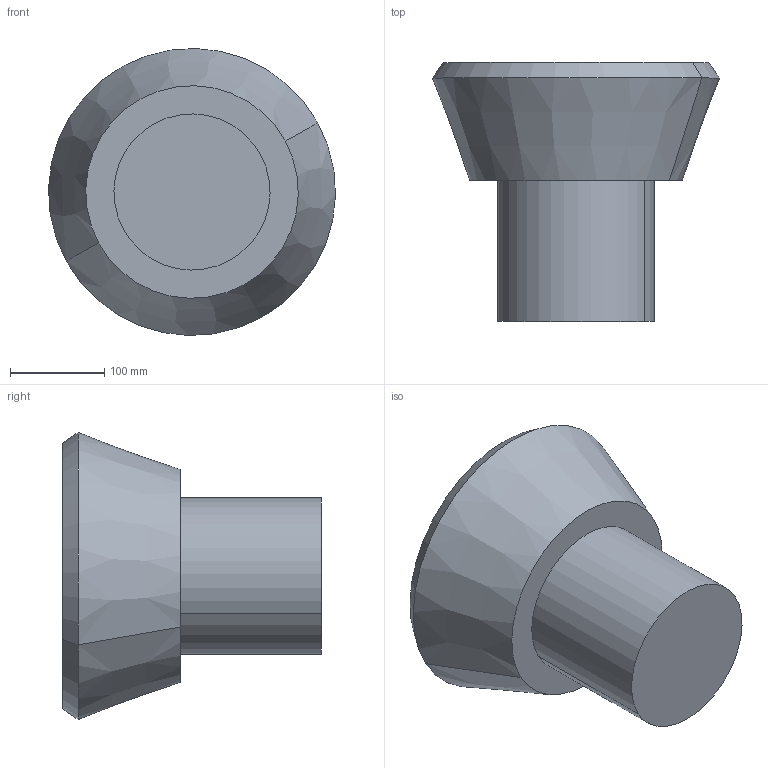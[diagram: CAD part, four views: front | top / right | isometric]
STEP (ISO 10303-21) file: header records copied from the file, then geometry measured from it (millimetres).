
FILE_DESCRIPTION(('CATIA V5 STEP Exchange'),'2;1');
FILE_NAME('C:\_Andres\UNIVERSIDAD\IQS\ASIGNATURAS\DAO\EXF\EXF-15161c\1original\Sánchez_Albiol_Ej09-optimiza_v23.stp','2016-03-04T21:55:31+00:00',('none'),('none'),'CATIA Version 5 Release 20 SP 1 (IN-10)','CATIA V5 STEP AP203','none');
FILE_SCHEMA(('CONFIG_CONTROL_DESIGN'));
Length unit declared in the file: millimetre
Products named in the file (1): Sánchez_Albiol_Ej09-optimiza_v23
Bounding box: 304.97 x 274.98 x 304.97 mm (x, y, z)
Volume: 10394871.4 mm3; surface area: 300092.8 mm2
Topology: 1 solids, 2 shells, 13 faces, 22 edges, 14 vertices
Faces by surface type: plane 5, cylinder 4, cone 4
Entity records: 324 total; most frequent: CARTESIAN_POINT 47, ORIENTED_EDGE 44, DIRECTION 42, AXIS2_PLACEMENT_3D 25, EDGE_CURVE 22, CIRCLE 14, EDGE_LOOP 14, VERTEX_POINT 14
